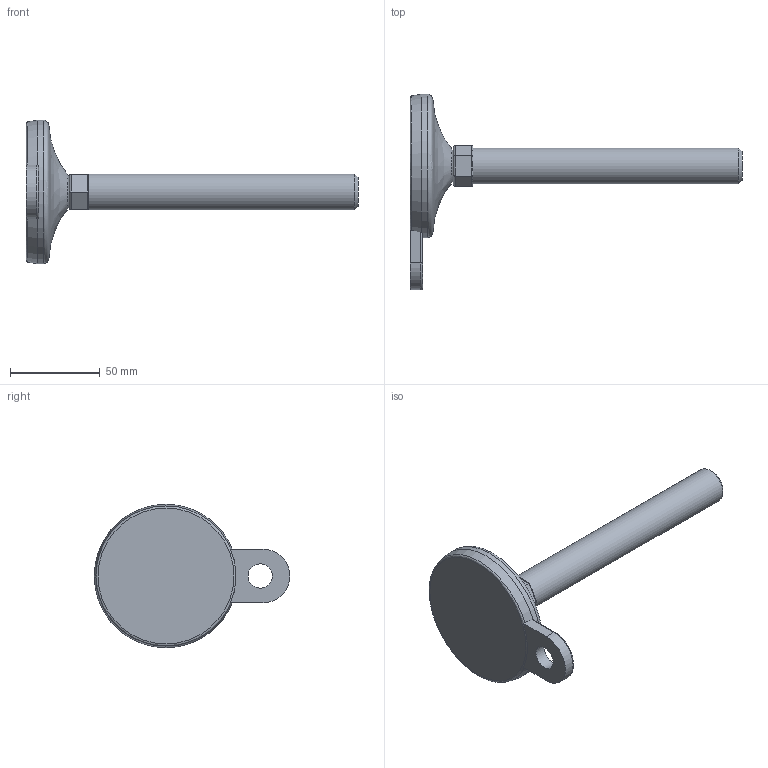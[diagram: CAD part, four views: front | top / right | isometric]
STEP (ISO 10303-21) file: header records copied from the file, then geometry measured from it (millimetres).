
FILE_DESCRIPTION(('STEP AP203'),'2;1');
FILE_NAME('26054-F.stp','2013-10-28T10:13:39',(''),(''),'2008.1.107','THINKDESIGN','');
FILE_SCHEMA(('CONFIG_CONTROL_DESIGN'));
Length unit declared in the file: millimetre
Bounding box: 185 x 109 x 80 mm (x, y, z)
Volume: 131726.4 mm3; surface area: 26626.6 mm2
Topology: 4 solids, 4 shells, 43 faces, 97 edges, 62 vertices
Faces by surface type: cylinder 19, plane 16, bspline 8
Full cylindrical faces by diameter (mm): 13.5 x1, 20 x1, 80 x1
Entity records: 1857 total; most frequent: CARTESIAN_POINT 821, ORIENTED_EDGE 194, DIRECTION 190, EDGE_CURVE 97, AXIS2_PLACEMENT_3D 72, VERTEX_POINT 62, VECTOR 46, LINE 46
